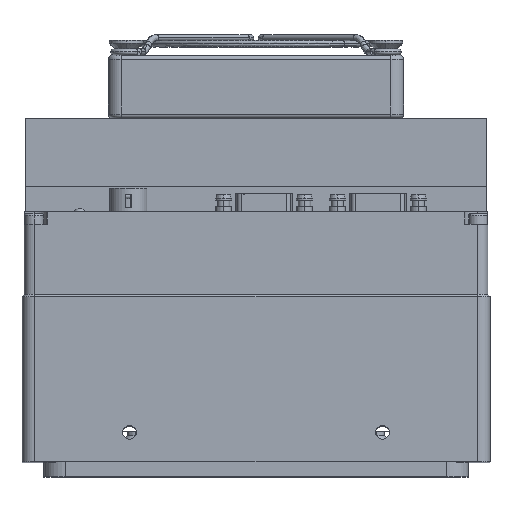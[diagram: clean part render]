
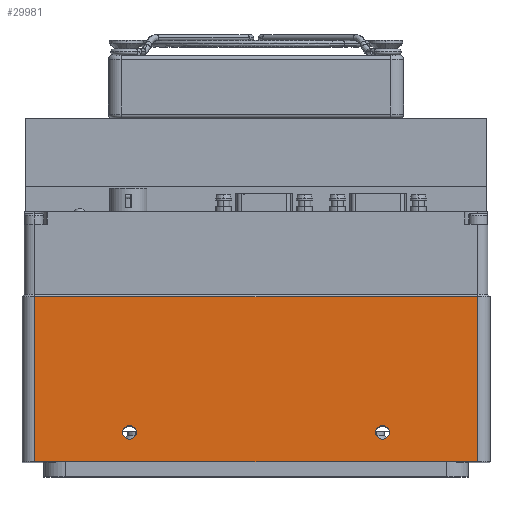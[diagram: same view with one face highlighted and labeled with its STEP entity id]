
A CAD part, top view. The second image highlights one B-rep face of the part: STEP entity #29981.
In plain terms, the highlighted planar face has unit normal (0, 0, 1).
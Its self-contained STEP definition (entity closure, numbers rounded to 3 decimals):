
#295 = DIRECTION ( 'NONE',  ( 0., 0., -1. ) ) ;
#1719 = EDGE_CURVE ( 'NONE', #30970, #11217, #16320, .T. ) ;
#2016 = EDGE_CURVE ( 'NONE', #24761, #15249, #21493, .T. ) ;
#2924 = VERTEX_POINT ( 'NONE', #30486 ) ;
#3220 = EDGE_CURVE ( 'NONE', #2924, #6445, #10551, .T. ) ;
#5352 = AXIS2_PLACEMENT_3D ( 'NONE', #14214, #11430, #20893 ) ;
#5622 = ORIENTED_EDGE ( 'NONE', *, *, #6634, .F. ) ;
#5716 = CARTESIAN_POINT ( 'NONE',  ( -78.134, -47.248, 84.619 ) ) ;
#6445 = VERTEX_POINT ( 'NONE', #8191 ) ;
#6495 = PLANE ( 'NONE',  #28725 ) ;
#6634 = EDGE_CURVE ( 'NONE', #16700, #18418, #37045, .T. ) ;
#7569 = EDGE_CURVE ( 'NONE', #11217, #24761, #28301, .T. ) ;
#8191 = CARTESIAN_POINT ( 'NONE',  ( -53.984, -40.248, 84.619 ) ) ;
#8360 = EDGE_LOOP ( 'NONE', ( #35416, #31709, #11285, #36285 ) ) ;
#8733 = FACE_BOUND ( 'NONE', #10477, .T. ) ;
#9051 = ORIENTED_EDGE ( 'NONE', *, *, #20043, .F. ) ;
#9469 = CARTESIAN_POINT ( 'NONE',  ( -78.134, -8.028, 84.619 ) ) ;
#10477 = EDGE_LOOP ( 'NONE', ( #30822, #5622 ) ) ;
#10551 = CIRCLE ( 'NONE', #29921, 1.65 ) ;
#10655 = CIRCLE ( 'NONE', #5352, 1.65 ) ;
#11217 = VERTEX_POINT ( 'NONE', #34239 ) ;
#11285 = ORIENTED_EDGE ( 'NONE', *, *, #1719, .T. ) ;
#11430 = DIRECTION ( 'NONE',  ( 0., 0., 1. ) ) ;
#11469 = DIRECTION ( 'NONE',  ( -1., 0., 0. ) ) ;
#11817 = CARTESIAN_POINT ( 'NONE',  ( 44.366, -44.198, 84.619 ) ) ;
#12256 = CARTESIAN_POINT ( 'NONE',  ( 26.866, -47.248, 84.619 ) ) ;
#12618 = CARTESIAN_POINT ( 'NONE',  ( 6.016, -40.248, 84.619 ) ) ;
#13432 = DIRECTION ( 'NONE',  ( 1., 0., 0. ) ) ;
#14214 = CARTESIAN_POINT ( 'NONE',  ( 4.366, -40.248, 84.619 ) ) ;
#14641 = AXIS2_PLACEMENT_3D ( 'NONE', #16554, #28766, #32108 ) ;
#15249 = VERTEX_POINT ( 'NONE', #5716 ) ;
#15384 = CARTESIAN_POINT ( 'NONE',  ( -55.634, -40.248, 84.619 ) ) ;
#15524 = DIRECTION ( 'NONE',  ( -1., 0., 0. ) ) ;
#15646 = CARTESIAN_POINT ( 'NONE',  ( 4.366, -40.248, 84.619 ) ) ;
#15792 = DIRECTION ( 'NONE',  ( 0., 0., 1. ) ) ;
#15915 = FACE_OUTER_BOUND ( 'NONE', #8360, .T. ) ;
#16320 = LINE ( 'NONE', #37958, #31532 ) ;
#16553 = DIRECTION ( 'NONE',  ( 0., -1., 0. ) ) ;
#16554 = CARTESIAN_POINT ( 'NONE',  ( -55.634, -40.248, 84.619 ) ) ;
#16700 = VERTEX_POINT ( 'NONE', #12618 ) ;
#17165 = CARTESIAN_POINT ( 'NONE',  ( 2.716, -40.248, 84.619 ) ) ;
#18418 = VERTEX_POINT ( 'NONE', #17165 ) ;
#20037 = EDGE_CURVE ( 'NONE', #15249, #30970, #30595, .T. ) ;
#20043 = EDGE_CURVE ( 'NONE', #6445, #2924, #31049, .T. ) ;
#20228 = VECTOR ( 'NONE', #11469, 1000. ) ;
#20397 = CARTESIAN_POINT ( 'NONE',  ( -92.634, -8.028, 84.619 ) ) ;
#20893 = DIRECTION ( 'NONE',  ( -1., 0., 0. ) ) ;
#21493 = LINE ( 'NONE', #35090, #25301 ) ;
#23231 = EDGE_CURVE ( 'NONE', #18418, #16700, #10655, .T. ) ;
#23858 = DIRECTION ( 'NONE',  ( 1., 0., 0. ) ) ;
#24761 = VERTEX_POINT ( 'NONE', #9469 ) ;
#25301 = VECTOR ( 'NONE', #16553, 1000. ) ;
#26181 = DIRECTION ( 'NONE',  ( 0., 1., 0. ) ) ;
#28301 = LINE ( 'NONE', #20397, #20228 ) ;
#28660 = VECTOR ( 'NONE', #13432, 1000. ) ;
#28725 = AXIS2_PLACEMENT_3D ( 'NONE', #11817, #295, #23858 ) ;
#28766 = DIRECTION ( 'NONE',  ( 0., 0., 1. ) ) ;
#29921 = AXIS2_PLACEMENT_3D ( 'NONE', #15384, #36464, #15524 ) ;
#29981 = ADVANCED_FACE ( 'NONE', ( #36905, #8733, #15915 ), #6495, .F. ) ;
#30486 = CARTESIAN_POINT ( 'NONE',  ( -57.284, -40.248, 84.619 ) ) ;
#30595 = LINE ( 'NONE', #34799, #28660 ) ;
#30822 = ORIENTED_EDGE ( 'NONE', *, *, #23231, .F. ) ;
#30970 = VERTEX_POINT ( 'NONE', #12256 ) ;
#31049 = CIRCLE ( 'NONE', #14641, 1.65 ) ;
#31413 = ORIENTED_EDGE ( 'NONE', *, *, #3220, .F. ) ;
#31532 = VECTOR ( 'NONE', #26181, 1000. ) ;
#31709 = ORIENTED_EDGE ( 'NONE', *, *, #20037, .T. ) ;
#32108 = DIRECTION ( 'NONE',  ( -1., 0., 0. ) ) ;
#34122 = EDGE_LOOP ( 'NONE', ( #31413, #9051 ) ) ;
#34239 = CARTESIAN_POINT ( 'NONE',  ( 26.866, -8.028, 84.619 ) ) ;
#34799 = CARTESIAN_POINT ( 'NONE',  ( 44.366, -47.248, 84.619 ) ) ;
#34930 = AXIS2_PLACEMENT_3D ( 'NONE', #15646, #15792, #36974 ) ;
#35090 = CARTESIAN_POINT ( 'NONE',  ( -78.134, -44.198, 84.619 ) ) ;
#35416 = ORIENTED_EDGE ( 'NONE', *, *, #2016, .T. ) ;
#36285 = ORIENTED_EDGE ( 'NONE', *, *, #7569, .T. ) ;
#36464 = DIRECTION ( 'NONE',  ( 0., 0., 1. ) ) ;
#36905 = FACE_BOUND ( 'NONE', #34122, .T. ) ;
#36974 = DIRECTION ( 'NONE',  ( -1., 0., 0. ) ) ;
#37045 = CIRCLE ( 'NONE', #34930, 1.65 ) ;
#37958 = CARTESIAN_POINT ( 'NONE',  ( 26.866, -44.198, 84.619 ) ) ;
